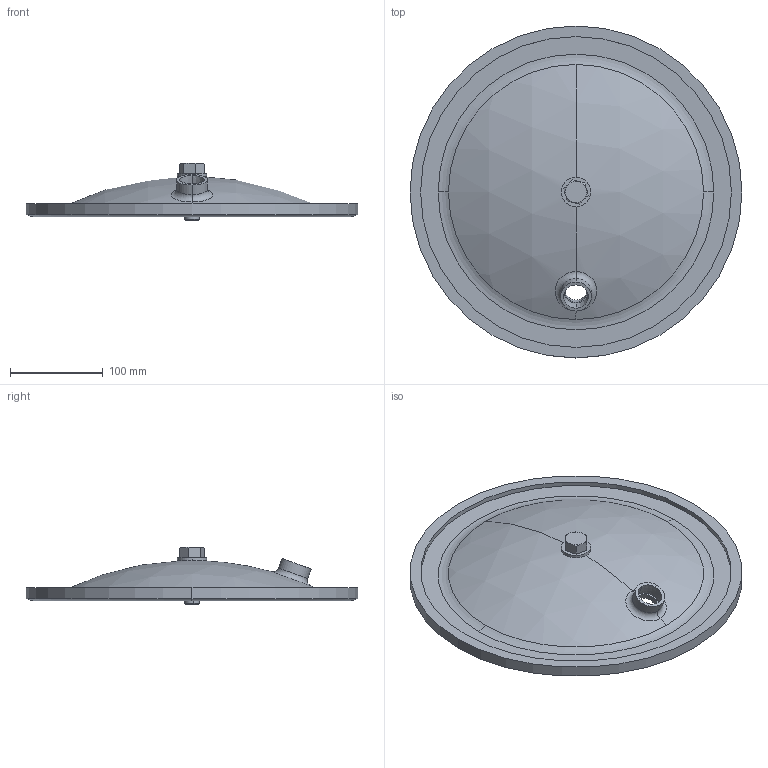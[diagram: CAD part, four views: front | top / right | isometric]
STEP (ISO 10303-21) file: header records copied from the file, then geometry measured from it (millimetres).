
FILE_DESCRIPTION (( 'STEP AP203' ), '1' );
FILE_NAME ('REC14KS.STEP', '2015-01-07T19:55:48', ( '' ), ( '' ), 'SwSTEP 2.0', 'SolidWorks 2014', '' );
FILE_SCHEMA (( 'CONFIG_CONTROL_DESIGN' ));
Length unit declared in the file: inch
Products named in the file (1): REC14KS
Bounding box: 358.39 x 358.39 x 62.08 mm (x, y, z)
Volume: 548729.3 mm3; surface area: 302239.7 mm2
Topology: 4 solids, 4 shells, 71 faces, 156 edges, 98 vertices
Faces by surface type: cylinder 26, plane 21, torus 10, cone 10, sphere 4
Entity records: 2129 total; most frequent: CARTESIAN_POINT 402, DIRECTION 390, ORIENTED_EDGE 312, AXIS2_PLACEMENT_3D 174, EDGE_CURVE 156, CIRCLE 102, VERTEX_POINT 98, EDGE_LOOP 84
